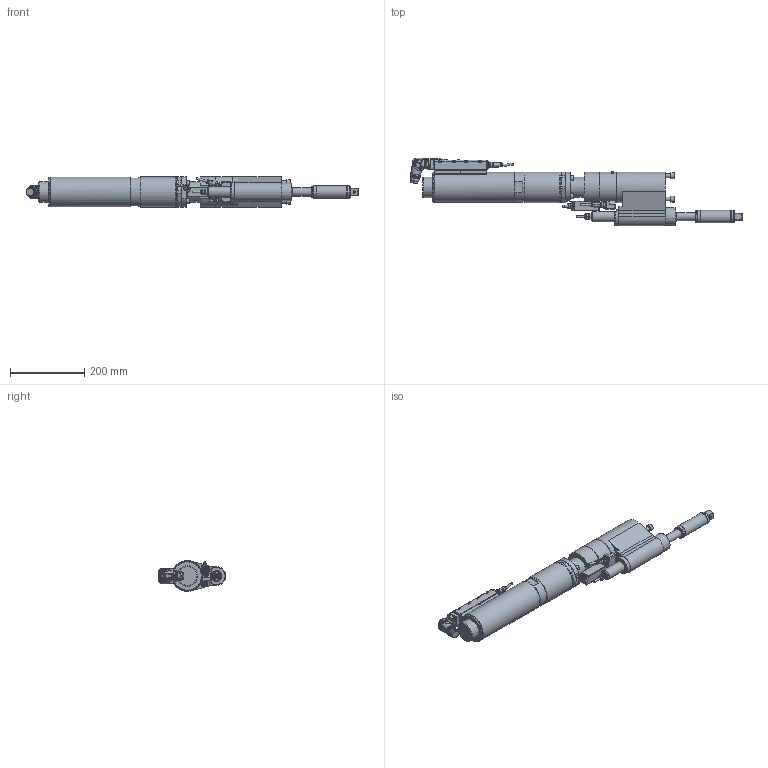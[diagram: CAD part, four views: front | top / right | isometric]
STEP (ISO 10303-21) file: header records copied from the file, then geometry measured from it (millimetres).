
FILE_DESCRIPTION (( 'STEP AP214' ), '1' );
FILE_NAME ('70082503_ESX329DRX300WX3AODX350-300.STEP', '2016-11-15T06:28:32', ( 'admin' ), ( '' ), 'SwSTEP 2.0', 'SolidWorks 2014', '' );
FILE_SCHEMA (( 'AUTOMOTIVE_DESIGN' ));
Length unit declared in the file: millimetre
Products named in the file (12): 7002133_3; 70082308_ESX329_Standard_Winkel_2; 70082293_2; 70057493_Standard_winkel; 70057493_4; 70057493_3; 70057493_2; 70082308; 70082324; 70082362; 70082385; 70082503_ESX329DRX300WX3AODX350-300
Assembly tree (12 placements, depth 4):
  70082503_ESX329DRX300WX3AODX350-300
    70082385
    70082362
    70082324
    70082308_ESX329_Standard_Winkel_2
      70082308
      70057493_Standard_winkel
        70057493_2
        70057493_3
        70057493_4
      70082293_2  x2
    7002133_3
Bounding box: 892.76 x 182.2 x 82 mm (x, y, z)
Volume: 4105339.5 mm3; surface area: 380322.8 mm2
Topology: 14 solids, 20 shells, 3627 faces, 9518 edges, 6150 vertices
Faces by surface type: plane 1822, cylinder 988, cone 463, bspline 271, torus 76, sphere 7
Full cylindrical faces by diameter (mm): 0.5 x14, 0.57 x14, 2 x3, 3 x4, 4.2 x1, 4.9 x7, 5 x9, 5.5 x13, 6 x2, 6.5 x1, 6.8 x8, 8 x28, 8.3 x2, 8.459 x2, 8.5 x2, 8.8 x2, 9 x6, 10 x3, 11.08 x5, 11.2 x1, 11.43 x1, 12 x1, 12.3 x3, 13 x4, 14 x6, 14.5 x2, 16 x3, 17.4 x1, 19.75 x2, 20 x1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
Entity records: 120950 total; most frequent: CARTESIAN_POINT 37166, ORIENTED_EDGE 17380, DIRECTION 15804, EDGE_CURVE 8690, AXIS2_PLACEMENT_3D 5904, VERTEX_POINT 5811, EDGE_LOOP 4109, LINE 3996
